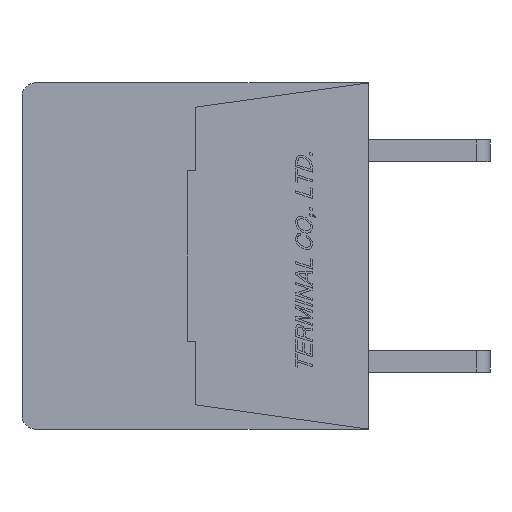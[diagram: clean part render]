
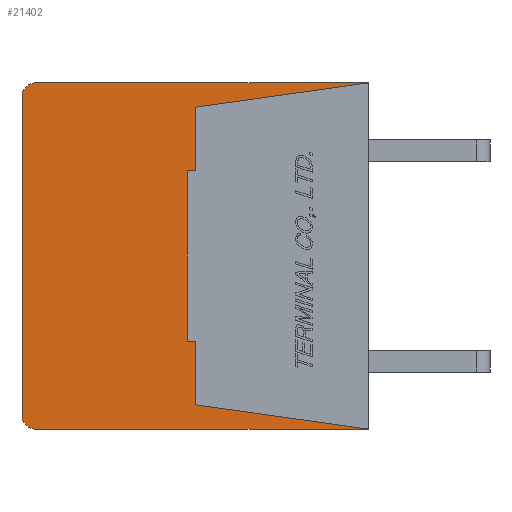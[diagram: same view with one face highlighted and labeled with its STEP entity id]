
A CAD part, left-side view. The second image highlights one B-rep face of the part: STEP entity #21402.
In plain terms, the highlighted planar face has unit normal (-1, 0, 0).
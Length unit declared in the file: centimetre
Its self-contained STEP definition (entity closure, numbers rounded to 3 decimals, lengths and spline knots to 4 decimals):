
#1115=CIRCLE('',#36517,0.05);
#1116=CIRCLE('',#36520,0.05);
#1982=VERTEX_POINT('',#29979);
#1983=VERTEX_POINT('',#29981);
#1984=VERTEX_POINT('',#29985);
#1985=VERTEX_POINT('',#29989);
#1986=VERTEX_POINT('',#29993);
#1987=VERTEX_POINT('',#29997);
#1988=VERTEX_POINT('',#30001);
#1989=VERTEX_POINT('',#30003);
#1990=VERTEX_POINT('',#30005);
#1991=VERTEX_POINT('',#30007);
#1992=VERTEX_POINT('',#30009);
#1993=VERTEX_POINT('',#30011);
#4261=VECTOR('',#24786,1.);
#4265=VECTOR('',#24795,1.);
#4268=VECTOR('',#24803,1.);
#4269=VECTOR('',#24805,1.);
#4270=VECTOR('',#24806,1.);
#4271=VECTOR('',#24807,1.);
#4272=VECTOR('',#24808,1.);
#4273=VECTOR('',#24809,1.);
#4274=VECTOR('',#24810,1.);
#4275=VECTOR('',#24811,1.);
#6782=LINE('',#29980,#4261);
#6786=LINE('',#29990,#4265);
#6789=LINE('',#29998,#4268);
#6790=LINE('',#30000,#4269);
#6791=LINE('',#30002,#4270);
#6792=LINE('',#30004,#4271);
#6793=LINE('',#30006,#4272);
#6794=LINE('',#30008,#4273);
#6795=LINE('',#30010,#4274);
#6796=LINE('',#30012,#4275);
#9601=EDGE_CURVE('',#1983,#1982,#6782,.T.);
#9604=EDGE_CURVE('',#1984,#1982,#1115,.T.);
#9606=EDGE_CURVE('',#1984,#1985,#6786,.T.);
#9608=EDGE_CURVE('',#1986,#1985,#1116,.T.);
#9610=EDGE_CURVE('',#1986,#1987,#6789,.T.);
#9611=EDGE_CURVE('',#1988,#1983,#6790,.T.);
#9612=EDGE_CURVE('',#1987,#1989,#6791,.T.);
#9613=EDGE_CURVE('',#1989,#1990,#6792,.T.);
#9614=EDGE_CURVE('',#1990,#1991,#6793,.T.);
#9615=EDGE_CURVE('',#1991,#1992,#6794,.T.);
#9616=EDGE_CURVE('',#1992,#1993,#6795,.T.);
#9617=EDGE_CURVE('',#1993,#1988,#6796,.T.);
#14037=ORIENTED_EDGE('',*,*,#9611,.T.);
#14038=ORIENTED_EDGE('',*,*,#9601,.T.);
#14039=ORIENTED_EDGE('',*,*,#9604,.F.);
#14040=ORIENTED_EDGE('',*,*,#9606,.T.);
#14041=ORIENTED_EDGE('',*,*,#9608,.F.);
#14042=ORIENTED_EDGE('',*,*,#9610,.T.);
#14043=ORIENTED_EDGE('',*,*,#9612,.T.);
#14044=ORIENTED_EDGE('',*,*,#9613,.T.);
#14045=ORIENTED_EDGE('',*,*,#9614,.T.);
#14046=ORIENTED_EDGE('',*,*,#9615,.T.);
#14047=ORIENTED_EDGE('',*,*,#9616,.T.);
#14048=ORIENTED_EDGE('',*,*,#9617,.T.);
#18658=EDGE_LOOP('',(#14037,#14038,#14039,#14040,#14041,#14042,#14043,#14044,
#14045,#14046,#14047,#14048));
#20061=FACE_BOUND('',#18658,.T.);
#21402=ADVANCED_FACE('',(#20061),#22543,.F.);
#22543=PLANE('',#36522);
#24786=DIRECTION('',(0.,1.,0.));
#24791=DIRECTION('',(1.,0.,0.));
#24792=DIRECTION('',(0.,0.,-0.05));
#24795=DIRECTION('',(0.,0.,-1.));
#24799=DIRECTION('',(1.,0.,0.));
#24800=DIRECTION('',(0.,0.,-0.05));
#24803=DIRECTION('',(0.,-1.,0.));
#24804=DIRECTION('',(1.,0.,0.));
#24805=DIRECTION('',(0.,-0.99,0.139));
#24806=DIRECTION('',(0.,0.99,0.139));
#24807=DIRECTION('',(0.,0.,1.));
#24808=DIRECTION('',(0.,1.,0.));
#24809=DIRECTION('',(0.,0.,1.));
#24810=DIRECTION('',(0.,-1.,0.));
#24811=DIRECTION('',(0.,0.,1.));
#29979=CARTESIAN_POINT('',(-1.,1.23,0.64));
#29980=CARTESIAN_POINT('',(-1.,0.,0.64));
#29981=CARTESIAN_POINT('',(-1.,0.,0.64));
#29985=CARTESIAN_POINT('',(-1.,1.28,0.59));
#29986=CARTESIAN_POINT('',(-1.,1.23,0.59));
#29989=CARTESIAN_POINT('',(-1.,1.28,-0.59));
#29990=CARTESIAN_POINT('',(-1.,1.28,0.59));
#29993=CARTESIAN_POINT('',(-1.,1.23,-0.64));
#29994=CARTESIAN_POINT('',(-1.,1.23,-0.59));
#29997=CARTESIAN_POINT('',(-1.,0.,-0.64));
#29998=CARTESIAN_POINT('',(-1.,1.23,-0.64));
#29999=CARTESIAN_POINT('',(-1.,0.6345,0.));
#30000=CARTESIAN_POINT('',(-1.,0.64,0.55));
#30001=CARTESIAN_POINT('',(-1.,0.64,0.55));
#30002=CARTESIAN_POINT('',(-1.,0.,-0.64));
#30003=CARTESIAN_POINT('',(-1.,0.64,-0.55));
#30004=CARTESIAN_POINT('',(-1.,0.64,-0.55));
#30005=CARTESIAN_POINT('',(-1.,0.64,-0.315));
#30006=CARTESIAN_POINT('',(-1.,0.64,-0.315));
#30007=CARTESIAN_POINT('',(-1.,0.67,-0.315));
#30008=CARTESIAN_POINT('',(-1.,0.67,-0.315));
#30009=CARTESIAN_POINT('',(-1.,0.67,0.315));
#30010=CARTESIAN_POINT('',(-1.,0.67,0.315));
#30011=CARTESIAN_POINT('',(-1.,0.64,0.315));
#30012=CARTESIAN_POINT('',(-1.,0.64,0.315));
#36517=AXIS2_PLACEMENT_3D('',#29986,#24791,#24792);
#36520=AXIS2_PLACEMENT_3D('',#29994,#24799,#24800);
#36522=AXIS2_PLACEMENT_3D('',#29999,#24804,$);
